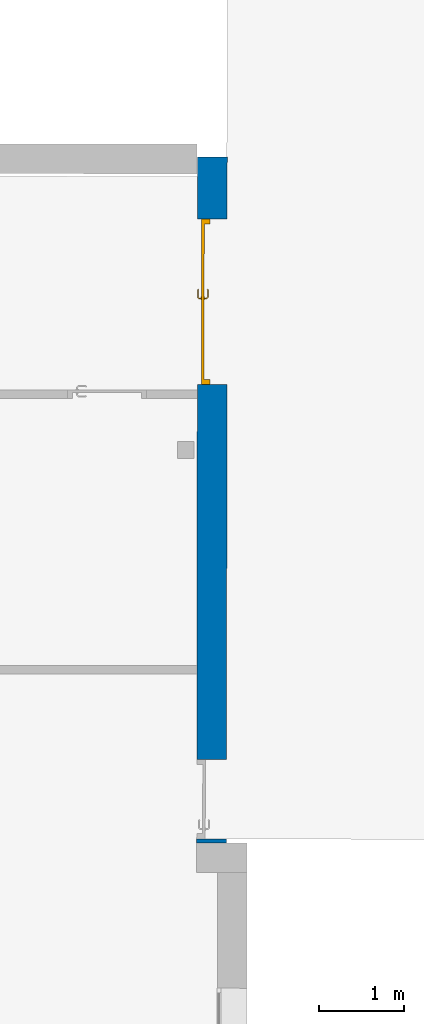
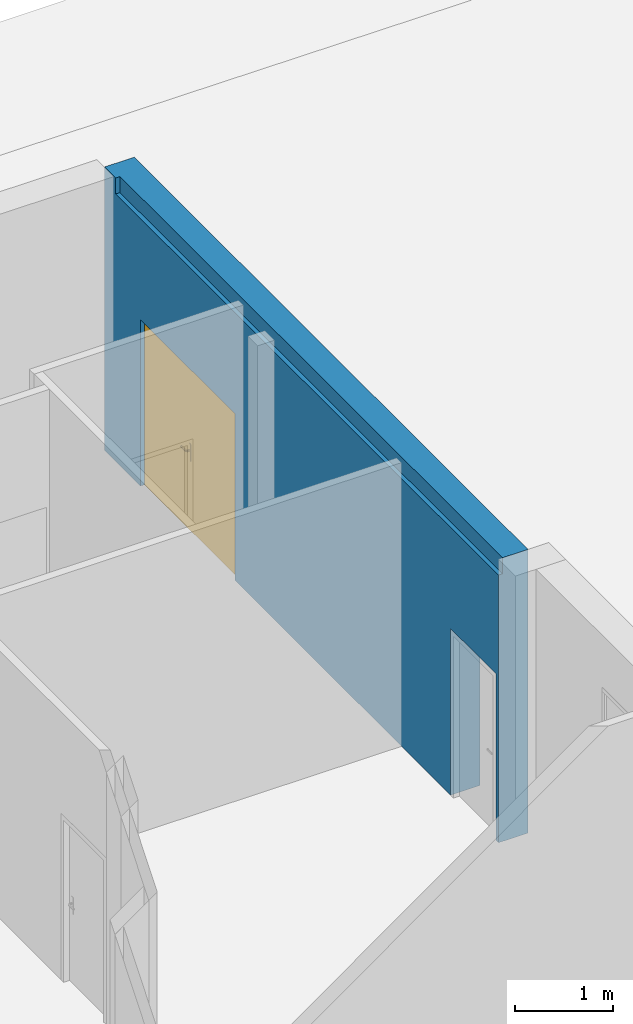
# One storey, part 94 of 101: 1 door, 1 wall, 2 openings.
"""IFC2X3 building model written with IfcOpenShell, lengths in metres."""

from ifc_helpers import new_model, entity, si_unit, converted_unit, derived_unit, direction, frame, frame_2d, origin, place, context, subcontext, project, spatial, rectangle, extrude, faceted_brep, source, transform, mapped, material, material_list, layer, layer_set, type_object, type_shapes, element, fill, save


model = new_model("IFC2X3")

# Units and contexts
model_context = context("Model", 3, precision=1e-05, world=origin(), true_north=direction((6.123233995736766e-17, 1.0)))
body_context = subcontext(model_context, "Body", "Model", "MODEL_VIEW")
ifc_project = project(units=[si_unit("LENGTHUNIT", "METRE"), si_unit("AREAUNIT", "SQUARE_METRE"), converted_unit("PLANEANGLEUNIT", "DEGREE", entity("IfcPlaneAngleMeasure", 0.017453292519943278), si_unit("PLANEANGLEUNIT", "RADIAN"), dimensions=[0, 0, 0, 0, 0, 0, 0]), derived_unit("THERMALTRANSMITTANCEUNIT", [(si_unit("MASSUNIT", "GRAM", prefix="KILO"), 1), (si_unit("THERMODYNAMICTEMPERATUREUNIT", "KELVIN"), -1), (si_unit("TIMEUNIT", "SECOND"), -3)])], contexts=[model_context])

# Site, building, storey
site_placement = place(None, frame((1253.6752467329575, 2072.143113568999, 91.49999999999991), z_axis=(0.0, 0.0, 1.0), x_axis=(0.7237211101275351, 0.6900925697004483, 0.0)))
site = spatial("IfcSite", under=ifc_project, at=site_placement, Name="Surface", CompositionType="ELEMENT")
building_placement = place(site_placement, origin())
building = spatial("IfcBuilding", under=site, at=building_placement, CompositionType="ELEMENT")
storey_placement = place(building_placement, origin())
storey = spatial("IfcBuildingStorey", under=building, at=storey_placement, Name="0- Rdc", CompositionType="ELEMENT", Elevation=-5.764692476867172e-13)

# Wall, openings, door
ifc_material_1 = material(Name="OMD_Béton blanc")
ifc_layer = layer(ifc_material_1, 0.35)
ifc_layer_set = layer_set([ifc_layer], Name="Mur de base:MUR 35")
wall_type = type_object("IfcWallType", Name="Mur de base:MUR 35", PredefinedType="STANDARD", material=ifc_layer_set)
wall_placement = place(storey_placement, frame((201.35529017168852, -6.0522402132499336, 0.0), z_axis=(0.0, 0.0, 1.0), x_axis=(-0.6909838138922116, -0.7228702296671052, 0.0)))
wall = element("IfcWall", 1, at=wall_placement, inside=storey, type_object=wall_type, Name="Mur de base:MUR 35", ObjectType="Mur de base:MUR 35", context=body_context, shape_type="Brep", body=[
    faceted_brep([(0.0, -0.17500000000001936, 3.5499999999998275), (0.0, -0.17500000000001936, 0.0), (0.7314537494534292, -0.17500000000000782, 0.0), (0.7314537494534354, -0.1750000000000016, 2.085), (2.6814537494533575, -0.17499999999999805, 2.085), (2.6814537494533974, -0.17500000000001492, 0.0), (2.7490063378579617, -0.17500000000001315, 0.0), (2.8490063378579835, -0.17500000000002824, 0.0), (5.998901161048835, -0.17500000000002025, 0.0), (6.098901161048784, -0.1749999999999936, 0.0), (7.106401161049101, -0.17500000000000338, 0.0), (7.1064011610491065, -0.17499999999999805, 2.0850000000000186), (8.041401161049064, -0.17499999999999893, 2.0850000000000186), (8.04140116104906, -0.1750000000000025, 0.0), (8.088901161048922, -0.17500000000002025, 0.0), (8.088901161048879, -0.17500000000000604, 3.3499999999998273), (0.22730187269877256, -0.1750000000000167, 3.3499999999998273), (0.22730187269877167, -0.1750000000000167, 3.5499999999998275), (0.2263576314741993, -0.1750000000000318, 3.5499999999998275), (0.0, 0.1749999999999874, 0.0), (0.0, 0.1749999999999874, 3.5499999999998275), (0.2263576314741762, 0.1749999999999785, 3.5499999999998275), (0.7714537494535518, 0.17499999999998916, 3.5499999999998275), (2.3214537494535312, 0.17499999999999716, 3.5499999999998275), (8.04452833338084, 0.1749999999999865, 3.5499999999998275), (8.088901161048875, 0.17499999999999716, 3.5499999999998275), (8.088901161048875, 0.17499999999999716, 0.0), (8.044528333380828, 0.1749999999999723, 0.0), (8.04140116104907, 0.17499999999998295, 0.0), (8.04140116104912, 0.17500000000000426, 2.0850000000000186), (7.106401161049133, 0.17499999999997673, 2.0850000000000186), (7.106401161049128, 0.1749999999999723, 0.0), (2.68145374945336, 0.17500000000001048, 0.0), (2.6814537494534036, 0.17499999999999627, 2.085), (0.7314537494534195, 0.17499999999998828, 2.085), (0.7314537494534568, 0.17499999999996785, 0.0), (0.22730187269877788, -0.1249999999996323, 3.5499999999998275), (8.088901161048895, -0.1250000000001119, 3.5499999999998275), (8.088901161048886, -0.12500000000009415, 3.3499999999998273), (0.22730187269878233, -0.12499999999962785, 3.3499999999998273)], [[[0, 1, 2, 3, 4, 5, 6, 7, 8, 9, 10, 11, 12, 13, 14, 15, 16, 17, 18]], [[19, 20, 21, 22, 23, 24, 25, 26, 27, 28, 29, 30, 31, 32, 33, 34, 35]], [[1, 0, 20, 19]], [[25, 24, 23, 22, 21, 20, 0, 18, 17, 36, 37]], [[26, 14, 13, 28, 27]], [[26, 25, 37, 38, 15, 14]], [[4, 33, 32, 5]], [[33, 4, 3, 34]], [[34, 3, 2, 35]], [[13, 12, 29, 28]], [[12, 11, 30, 29]], [[11, 10, 31, 30]], [[38, 39, 16, 15]], [[39, 36, 17, 16]], [[36, 39, 38, 37]], [[5, 32, 31, 10, 9, 8, 7, 6]], [[1, 19, 35, 2]]]),
])
opening_1_placement = place(wall_placement, frame((2.681453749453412, 0.1750000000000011, 0.0)))
opening_1 = element("IfcOpeningElement", 2, at=opening_1_placement, cuts=wall, Name="OMD_Porte 2V tunnel:double 180x204:1", ObjectType="Opening", context=body_context, shape_type="SweptSolid", body=[
    extrude(rectangle(XDim=2.085, YDim=1.9499999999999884, at=frame_2d((1.0425, 0.974999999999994), x_axis=(1.0, 0.0))), frame((0.0, 0.0, 0.0), z_axis=(0.0, -1.0, 0.0), x_axis=(0.0, 0.0, 1.0)), (0.0, 0.0, 1.0), 0.35),
])
opening_2_placement = place(wall_placement, frame((7.1064011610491, -0.17500000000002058, 0.0)))
element("IfcOpeningElement", 3, at=opening_2_placement, cuts=wall, Name="OMD_Porte 1V tunnel:80x204:1", ObjectType="Opening", context=body_context, shape_type="SweptSolid", body=[
    extrude(rectangle(XDim=2.0850000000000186, YDim=0.9349999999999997, at=frame_2d((1.0425000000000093, 0.46749999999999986), x_axis=(1.0, 0.0))), frame((0.0, 0.0, 0.0), z_axis=(0.0, 1.0, 0.0), x_axis=(0.0, 0.0, 1.0)), (0.0, 0.0, 1.0), 0.35),
])
ifc_material_2 = material(Name="<Unnamed>")
ifc_material_3 = material(Name="Porte - Poignée")
ifc_material_4 = material(Name="OMD_Bois")
ifc_material_list = material_list([ifc_material_2, ifc_material_3, ifc_material_4])
door_style = type_object("IfcDoorStyle", Name="OMD_Porte 2V tunnel:double 180x204", ConstructionType="NOTDEFINED", OperationType="NOTDEFINED", ParameterTakesPrecedence=False, Sizeable=False, material=ifc_material_list)
shared_shape = source(origin(), body_context, "Body", "Brep", [
    faceted_brep([(1.9049999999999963, 0.08000000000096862, 0.0), (1.9049999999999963, 0.05000000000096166, 0.0), (0.9899999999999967, 0.05000000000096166, 0.0), (0.9899999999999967, 0.08000000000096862, 0.0), (1.9049999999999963, 0.08000000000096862, 2.04), (1.9049999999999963, 0.05000000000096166, 2.04), (0.9899999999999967, 0.05000000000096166, 2.04), (0.9899999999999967, 0.08000000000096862, 2.04)], [[[0, 1, 2, 3]], [[4, 5, 1, 0]], [[5, 6, 2, 1]], [[6, 7, 3, 2]], [[7, 4, 0, 3]], [[4, 7, 6, 5]]]),
    faceted_brep([(0.9370252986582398, 0.0850000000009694, 1.0077804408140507), (0.9329747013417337, 0.0850000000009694, 1.007780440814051), (0.9289999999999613, 0.0850000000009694, 1.00699999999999), (0.9289999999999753, 0.0850000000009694, 0.9930000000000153), (0.9329747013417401, 0.0850000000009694, 0.9922195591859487), (0.9370252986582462, 0.0850000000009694, 0.9922195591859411), (0.9410000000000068, 0.0850000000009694, 0.9929999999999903), (0.9410000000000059, 0.0850000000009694, 1.006999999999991), (0.9289999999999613, 0.1074852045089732, 1.00699999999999), (0.9289999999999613, 0.10748520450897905, 0.9930000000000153), (0.9329747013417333, 0.10913157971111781, 1.007780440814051), (0.9370252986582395, 0.11080939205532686, 1.0077804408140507), (0.9208389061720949, 0.1269957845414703, 1.0077804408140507), (0.9191610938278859, 0.12294518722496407, 1.007780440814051), (0.8357931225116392, 0.12294518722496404, 1.0077804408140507), (0.8341153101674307, 0.1269957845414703, 1.0077804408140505), (0.8264510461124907, 0.1193315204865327, 1.0077804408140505), (0.829315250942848, 0.11646731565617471, 1.0077804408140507), (0.9410000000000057, 0.11245576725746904, 1.006999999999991), (0.9410000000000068, 0.11245576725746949, 0.9929999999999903), (0.9370252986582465, 0.11080939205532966, 0.9922195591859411), (0.9329747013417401, 0.10913157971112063, 0.9922195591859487), (0.9191610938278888, 0.12294518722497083, 0.9922195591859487), (0.9208389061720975, 0.12699578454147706, 0.9922195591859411), (0.8341153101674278, 0.12699578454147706, 0.9922195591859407), (0.8357931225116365, 0.1229451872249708, 0.9922195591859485), (0.8293152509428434, 0.11646731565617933, 0.9922195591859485), (0.8264510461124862, 0.11933152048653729, 0.9922195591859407), (0.9175147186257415, 0.11897048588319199, 1.00699999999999), (0.9175147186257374, 0.11897048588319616, 0.9930000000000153), (0.9224852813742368, 0.13097048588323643, 1.006999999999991), (0.9224852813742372, 0.13097048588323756, 0.9929999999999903), (0.8774771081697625, 0.11897048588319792, 1.0069999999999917), (0.8374394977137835, 0.11897048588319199, 1.0069999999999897), (0.8374394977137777, 0.11897048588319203, 0.9930000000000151), (0.8774771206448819, 0.11897048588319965, 0.9930000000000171), (0.8774771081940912, 0.12512492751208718, 1.0078781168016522), (0.8723994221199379, 0.13097048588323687, 1.0069999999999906), (0.8324689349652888, 0.13097048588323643, 1.0069999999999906), (0.8825547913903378, 0.13097048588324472, 0.9929999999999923), (0.8324689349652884, 0.13097048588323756, 0.99299999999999), (0.8774771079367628, 0.12512492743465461, 0.9921218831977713), (0.8236405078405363, 0.12214205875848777, 1.0069999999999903), (0.8236405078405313, 0.12214205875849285, 0.9929999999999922), (0.832125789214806, 0.11365677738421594, 0.9930000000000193), (0.8321257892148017, 0.11365677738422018, 1.0069999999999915)], [[[0, 1, 2, 3, 4, 5, 6, 7]], [[8, 9, 3, 2]], [[1, 10, 8, 2]], [[1, 0, 11, 12, 13, 10]], [[14, 15, 16, 17]], [[7, 18, 11, 0]], [[18, 7, 6, 19]], [[6, 5, 20, 19]], [[5, 4, 21, 22, 23, 20]], [[24, 25, 26, 27]], [[4, 3, 9, 21]], [[28, 29, 9, 8]], [[8, 10, 13, 28]], [[18, 30, 12, 11]], [[31, 30, 18, 19]], [[19, 20, 23, 31]], [[21, 9, 29, 22]], [[29, 28, 32, 33, 34, 35]], [[36, 32, 13]], [[37, 38, 15]], [[37, 12, 30]], [[36, 12, 37]], [[14, 32, 36]], [[36, 15, 14]], [[28, 13, 32]], [[32, 14, 33]], [[12, 36, 13]], [[15, 36, 37]], [[30, 31, 39, 40, 38, 37]], [[23, 41, 39]], [[24, 39, 41]], [[39, 31, 23]], [[39, 24, 40]], [[22, 35, 41]], [[41, 23, 22]], [[41, 35, 25]], [[35, 22, 29]], [[34, 25, 35]], [[24, 41, 25]], [[17, 16, 42, 43, 27, 26, 44, 45]], [[45, 44, 34, 33]], [[33, 14, 17, 45]], [[15, 38, 42, 16]], [[43, 42, 38, 40]], [[24, 27, 43, 40]], [[34, 44, 26, 25]]]),
    faceted_brep([(0.932974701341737, 0.04500000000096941, 1.007780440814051), (0.9370252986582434, 0.04500000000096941, 1.0077804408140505), (0.9410000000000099, 0.04500000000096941, 1.0069999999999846), (0.9410000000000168, 0.04500000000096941, 0.9929999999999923), (0.9370252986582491, 0.04500000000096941, 0.992219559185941), (0.932974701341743, 0.04500000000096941, 0.9922195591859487), (0.9289999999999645, 0.04500000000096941, 0.9930000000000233), (0.9289999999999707, 0.04500000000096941, 1.006999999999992), (0.9370252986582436, 0.01899542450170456, 1.0077804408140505), (0.9410000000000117, 0.01734904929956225, 1.0069999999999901), (0.9329747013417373, 0.020673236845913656, 1.007780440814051), (0.9192986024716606, 0.006997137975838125, 1.007780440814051), (0.9209764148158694, 0.0029465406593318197, 1.0077804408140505), (0.834142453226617, 0.0029465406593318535, 1.0077804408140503), (0.8358202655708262, 0.006997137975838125, 1.0077804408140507), (0.829342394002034, 0.01347500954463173, 1.0077804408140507), (0.8264781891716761, 0.010610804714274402, 1.0077804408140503), (0.928999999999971, 0.022319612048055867, 1.006999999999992), (0.9289999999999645, 0.022319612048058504, 0.9930000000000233), (0.932974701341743, 0.020673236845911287, 0.9922195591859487), (0.9370252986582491, 0.01899542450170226, 0.992219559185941), (0.9209764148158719, 0.002946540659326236, 0.992219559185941), (0.9192986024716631, 0.006997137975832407, 0.9922195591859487), (0.8358202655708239, 0.0069971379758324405, 0.9922195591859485), (0.8341424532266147, 0.002946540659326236, 0.9922195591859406), (0.826478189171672, 0.01061080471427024, 0.9922195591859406), (0.8293423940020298, 0.013475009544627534, 0.9922195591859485), (0.9410000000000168, 0.017349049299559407, 0.9929999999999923), (0.922622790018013, -0.00102816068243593, 1.0069999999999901), (0.9176522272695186, 0.010971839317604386, 1.006999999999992), (0.9176522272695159, 0.010971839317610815, 0.9930000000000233), (0.9226227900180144, -0.0010281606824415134, 0.9929999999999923), (0.877559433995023, 0.004817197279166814, 1.0078781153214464), (0.8826923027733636, -0.0010281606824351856, 1.0069999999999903), (0.8324960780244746, -0.0010281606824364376, 1.00699999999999), (0.8775594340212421, 0.010971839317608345, 1.0069999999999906), (0.8374666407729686, 0.010971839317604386, 1.0069999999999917), (0.8775594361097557, 0.010971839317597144, 0.9930000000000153), (0.8374666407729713, 0.010971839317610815, 0.9930000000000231), (0.8775594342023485, 0.004817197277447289, 0.9921218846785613), (0.8724265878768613, -0.0010281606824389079, 0.9929999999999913), (0.8324960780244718, -0.0010281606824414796, 0.9929999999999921), (0.8321529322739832, 0.016285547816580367, 0.9930000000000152), (0.8236676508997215, 0.007800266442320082, 0.9929999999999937), (0.8236676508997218, 0.007800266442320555, 1.0069999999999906), (0.832152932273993, 0.016285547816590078, 1.0069999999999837)], [[[0, 1, 2, 3, 4, 5, 6, 7]], [[2, 1, 8, 9]], [[1, 0, 10, 11, 12, 8]], [[13, 14, 15, 16]], [[0, 7, 17, 10]], [[18, 17, 7, 6]], [[5, 19, 18, 6]], [[5, 4, 20, 21, 22, 19]], [[23, 24, 25, 26]], [[3, 27, 20, 4]], [[9, 27, 3, 2]], [[9, 8, 12, 28]], [[10, 17, 29, 11]], [[30, 29, 17, 18]], [[18, 19, 22, 30]], [[20, 27, 31, 21]], [[28, 31, 27, 9]], [[12, 32, 33]], [[13, 33, 32]], [[33, 28, 12]], [[33, 13, 34]], [[11, 35, 32]], [[32, 12, 11]], [[32, 35, 14]], [[35, 11, 29]], [[36, 14, 35]], [[13, 32, 14]], [[29, 30, 37, 38, 36, 35]], [[39, 37, 22]], [[40, 41, 24]], [[40, 21, 31]], [[39, 21, 40]], [[23, 37, 39]], [[39, 24, 23]], [[30, 22, 37]], [[37, 23, 38]], [[21, 39, 22]], [[24, 39, 40]], [[31, 28, 33, 34, 41, 40]], [[42, 26, 25, 43, 44, 16, 15, 45]], [[13, 16, 44, 34]], [[36, 45, 15, 14]], [[42, 45, 36, 38]], [[38, 23, 26, 42]], [[24, 41, 43, 25]], [[44, 43, 41, 34]]]),
    faceted_brep([(0.9349999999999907, 0.08000000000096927, 0.8646410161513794), (0.9453527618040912, 0.08000000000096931, 0.866003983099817), (0.9549999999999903, 0.08000000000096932, 0.8700000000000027), (0.9549999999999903, 0.08000000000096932, 1.0800000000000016), (0.9453527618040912, 0.08000000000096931, 1.0839960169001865), (0.9349999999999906, 0.08000000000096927, 1.0853589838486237), (0.92464723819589, 0.08000000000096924, 1.0839960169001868), (0.9149999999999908, 0.0800000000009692, 1.0800000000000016), (0.9149999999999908, 0.0800000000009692, 0.8700000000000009), (0.92464723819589, 0.08000000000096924, 0.8660039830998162), (0.9349999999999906, 0.08500000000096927, 1.0853589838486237), (0.9453527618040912, 0.0850000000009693, 1.0839960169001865), (0.9549999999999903, 0.08500000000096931, 1.0800000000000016), (0.9549999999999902, 0.08500000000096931, 0.8700000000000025), (0.9453527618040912, 0.0850000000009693, 0.866003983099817), (0.9349999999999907, 0.08500000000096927, 0.8646410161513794), (0.92464723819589, 0.08500000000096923, 0.8660039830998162), (0.9149999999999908, 0.0850000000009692, 0.8700000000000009), (0.9149999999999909, 0.0850000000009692, 1.0800000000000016), (0.92464723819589, 0.08500000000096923, 1.0839960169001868)], [[[0, 1, 2, 3, 4, 5, 6, 7, 8, 9]], [[10, 11, 12, 13, 14, 15, 16, 17, 18, 19]], [[6, 19, 18, 7]], [[5, 10, 19, 6]], [[4, 11, 10, 5]], [[4, 3, 12, 11]], [[12, 3, 2, 13]], [[1, 14, 13, 2]], [[0, 15, 14, 1]], [[9, 16, 15, 0]], [[9, 8, 17, 16]], [[17, 8, 7, 18]]]),
    faceted_brep([(0.934999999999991, 0.04500000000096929, 0.8646410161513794), (0.9453527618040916, 0.04500000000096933, 0.8660039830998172), (0.9549999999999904, 0.04500000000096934, 0.8700000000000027), (0.9549999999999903, 0.04500000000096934, 1.0800000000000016), (0.9453527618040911, 0.04500000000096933, 1.0839960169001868), (0.9349999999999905, 0.04500000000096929, 1.0853589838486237), (0.9246472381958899, 0.04500000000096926, 1.0839960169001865), (0.9149999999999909, 0.04500000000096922, 1.0800000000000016), (0.9149999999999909, 0.04500000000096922, 0.8700000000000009), (0.9246472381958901, 0.04500000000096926, 0.8660039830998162), (0.9549999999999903, 0.05000000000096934, 1.0800000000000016), (0.9549999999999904, 0.05000000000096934, 0.8700000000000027), (0.9453527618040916, 0.050000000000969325, 0.8660039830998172), (0.934999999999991, 0.05000000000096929, 0.8646410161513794), (0.9246472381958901, 0.050000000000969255, 0.8660039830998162), (0.9149999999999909, 0.05000000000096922, 0.8700000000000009), (0.9149999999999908, 0.05000000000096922, 1.0800000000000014), (0.9246472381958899, 0.050000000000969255, 1.0839960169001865), (0.9349999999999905, 0.05000000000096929, 1.0853589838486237), (0.9453527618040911, 0.050000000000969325, 1.0839960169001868)], [[[0, 1, 2, 3, 4, 5, 6, 7, 8, 9]], [[10, 11, 12, 13, 14, 15, 16, 17, 18, 19]], [[1, 12, 11, 2]], [[0, 13, 12, 1]], [[9, 14, 13, 0]], [[9, 8, 15, 14]], [[15, 8, 7, 16]], [[6, 17, 16, 7]], [[5, 18, 17, 6]], [[4, 19, 18, 5]], [[4, 3, 10, 19]], [[10, 3, 2, 11]]]),
    faceted_brep([(0.9900000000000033, 0.08000000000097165, 0.0), (0.9900000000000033, 0.0500000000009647, 0.0), (0.04500000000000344, 0.0500000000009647, 0.0), (0.04500000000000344, 0.08000000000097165, 0.0), (0.9900000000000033, 0.08000000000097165, 2.04), (0.9900000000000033, 0.0500000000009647, 2.04), (0.04500000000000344, 0.0500000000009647, 2.04), (0.04500000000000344, 0.08000000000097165, 2.04)], [[[0, 1, 2, 3]], [[4, 5, 1, 0]], [[5, 6, 2, 1]], [[6, 7, 3, 2]], [[7, 4, 0, 3]], [[4, 7, 6, 5]]]),
    faceted_brep([(1.9499999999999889, 0.05000000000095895, 0.0), (1.9049999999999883, 0.05000000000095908, 0.0), (1.9049999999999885, 0.08000000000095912, 0.0), (1.8899999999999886, 0.08000000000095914, 0.0), (1.8899999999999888, 0.15000000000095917, 0.0), (1.949999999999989, 0.15000000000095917, 0.0), (1.9499999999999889, 0.05000000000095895, 2.085), (0.0, 0.050000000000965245, 2.085), (0.0, 0.05000000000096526, 0.0), (0.04500000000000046, 0.05000000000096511, 0.0), (0.0450000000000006, 0.05000000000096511, 2.039999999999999), (1.9049999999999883, 0.05000000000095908, 2.039999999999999), (1.9049999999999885, 0.0800000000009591, 2.0399999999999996), (0.04500000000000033, 0.0800000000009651, 2.0399999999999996), (0.04500000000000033, 0.08000000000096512, 0.0), (0.060000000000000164, 0.08000000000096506, 0.0), (0.0600000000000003, 0.08000000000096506, 2.0249999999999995), (1.8899999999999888, 0.08000000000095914, 2.0249999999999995), (1.8899999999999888, 0.15000000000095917, 2.0249999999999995), (0.0600000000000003, 0.15000000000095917, 2.025), (0.0600000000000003, 0.15000000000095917, 0.0), (0.0, 0.15000000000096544, 0.0), (0.0, 0.15000000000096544, 2.085), (1.949999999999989, 0.15000000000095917, 2.085)], [[[0, 1, 2, 3, 4, 5]], [[1, 0, 6, 7, 8, 9, 10, 11]], [[2, 1, 11, 12]], [[3, 2, 12, 13, 14, 15, 16, 17]], [[4, 3, 17, 18]], [[5, 4, 18, 19, 20, 21, 22, 23]], [[0, 5, 23, 6]], [[7, 22, 21, 8]], [[8, 21, 20, 15, 14, 9]], [[13, 10, 9, 14]], [[19, 16, 15, 20]], [[12, 11, 10, 13]], [[18, 17, 16, 19]], [[6, 23, 22, 7]]]),
])
type_shapes(door_style, [shared_shape])
door_placement = place(opening_1_placement, frame((-1.949999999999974, -0.35000000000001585, 0.0)))
door = element("IfcDoor", 4, at=door_placement, inside=storey, type_object=door_style, material=ifc_material_list, Name="OMD_Porte 2V tunnel:double 180x204", ObjectType="OMD_Porte 2V tunnel:double 180x204", OverallHeight=2.085, OverallWidth=1.950000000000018, context=body_context, shape_type="MappedRepresentation", body=[
    mapped(shared_shape, transform((0.0, 0.0, 0.0), scale=1.0)),
])
fill(opening_1, door)

save(model, "model.ifc")
